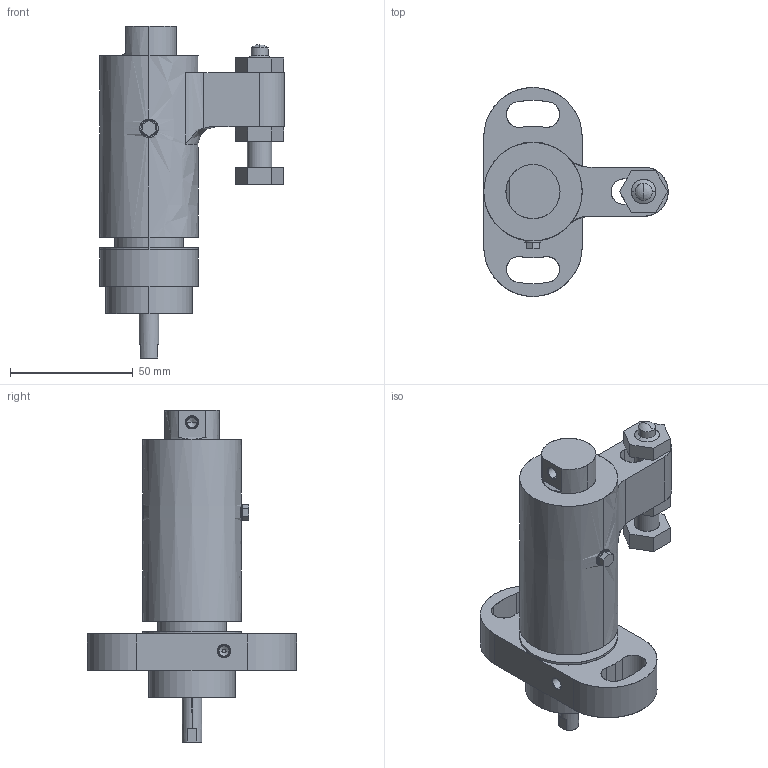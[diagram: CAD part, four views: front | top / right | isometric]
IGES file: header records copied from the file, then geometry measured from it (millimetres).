
Start section: SolidWorks IGES file using analytic representation for surfaces
Global section: file name: X:\11_SW2020-Inv2020\00_全2021-11新製品まで\a\AMWSW20L-W-D\amwsw20l-w-d.IGS; native system: SolidWorks 2020; preprocessor: SolidWorks 2020; author: ImaoCorp; date: 211021.164319; units: millimetre
Bounding box: 75 x 85 x 135 mm (x, y, z)
Surface area: 44567.9 mm2 (no closed solid volume)
Topology: 0 solids, 0 shells, 137 faces, 2503 edges, 2500 vertices
Faces by surface type: revolution 74, bspline 63
